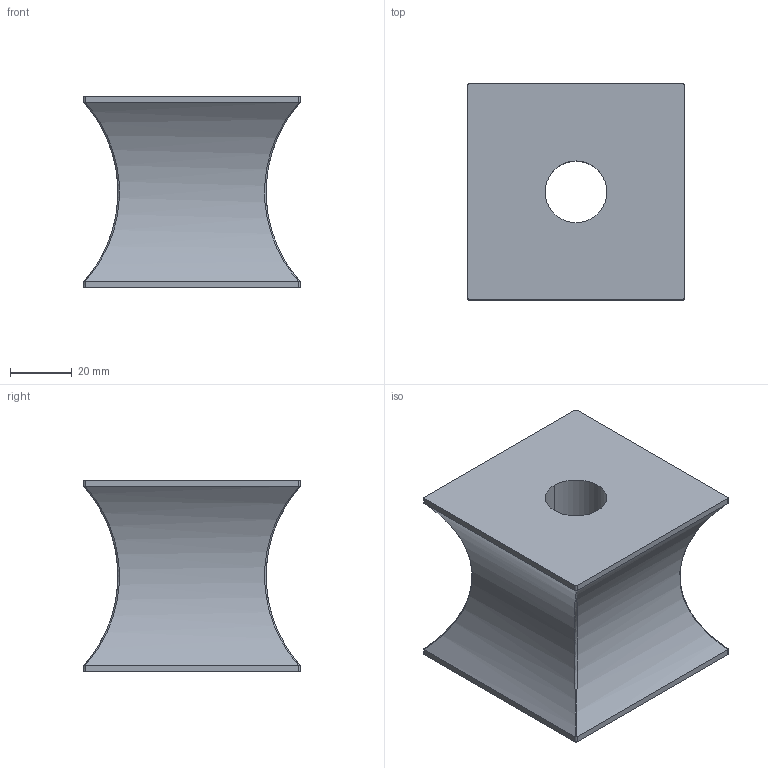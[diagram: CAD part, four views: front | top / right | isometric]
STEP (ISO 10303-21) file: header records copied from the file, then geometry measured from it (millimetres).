
FILE_DESCRIPTION(/* description */ (''),/* implementation_level */ '2;1');
FILE_NAME(/* name */ '3d_qx70-62_06519_r00.stp',/* time_stamp */ '2011-01-10T14:11:39+09:00',/* author */ ('MISUMI'),/* organization */ (''),/* preprocessor_version */ 'ST-DEVELOPER v11',/* originating_system */ 'UGS - NX 5.0',/* authorisation */ '');
FILE_SCHEMA (('CONFIG_CONTROL_DESIGN'));
Length unit declared in the file: millimetre
Products named in the file (1): 3d_qx70-62_06519_r00
Bounding box: 70 x 70 x 62 mm (x, y, z)
Volume: 177430.2 mm3; surface area: 28210.9 mm2
Topology: 1 solids, 1 shells, 28 faces, 78 edges, 52 vertices
Faces by surface type: cylinder 14, plane 10, bspline 4
Entity records: 4928 total; most frequent: CARTESIAN_POINT 4179, ORIENTED_EDGE 156, DIRECTION 108, EDGE_CURVE 78, VERTEX_POINT 52, AXIS2_PLACEMENT_3D 37, LINE 34, VECTOR 34
